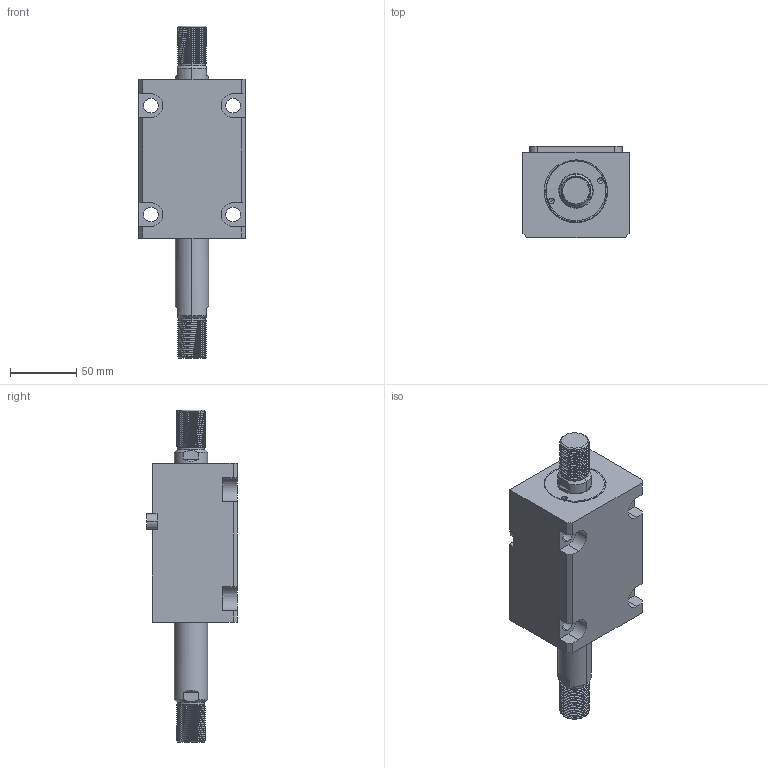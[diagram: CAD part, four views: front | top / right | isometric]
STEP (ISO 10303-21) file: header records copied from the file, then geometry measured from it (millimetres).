
FILE_DESCRIPTION (( 'STEP AP214' ), '1' );
FILE_NAME ('chtb-lwm40x50w_asm.STEP', '2018-05-31T00:42:52', ( 'Windows' ), ( 'Microsoft' ), 'SwSTEP 2.0', 'SolidWorks 2015', '' );
FILE_SCHEMA (( 'AUTOMOTIVE_DESIGN' ));
Length unit declared in the file: millimetre
Products named in the file (5): chtb-lwm40x50w_asm; CHTB-SW40X50NHSG; CHTB-SD40QG; CHTB-LA40PJ; CHTB-LWM40X50NBT
Assembly tree (4 placements, depth 2):
  chtb-lwm40x50w_asm
    CHTB-LWM40X50NBT
    CHTB-LA40PJ
    CHTB-SD40QG
    CHTB-SW40X50NHSG
Bounding box: 80 x 68.5 x 250 mm (x, y, z)
Volume: 597766.6 mm3; surface area: 104863 mm2
Topology: 4 solids, 4 shells, 252 faces, 699 edges, 465 vertices
Faces by surface type: cylinder 152, plane 57, bspline 18, cone 13, torus 12
Entity records: 17373 total; most frequent: CARTESIAN_POINT 11260, ORIENTED_EDGE 1386, DIRECTION 1092, EDGE_CURVE 693, VERTEX_POINT 465, AXIS2_PLACEMENT_3D 419, EDGE_LOOP 284, VECTOR 254
